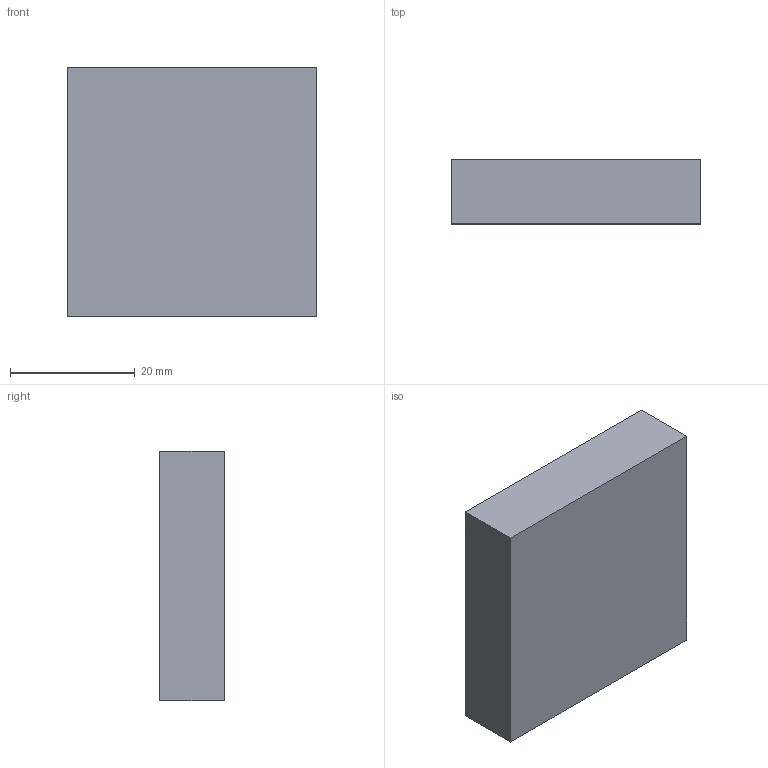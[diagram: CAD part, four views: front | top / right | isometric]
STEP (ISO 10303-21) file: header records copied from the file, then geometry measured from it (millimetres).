
FILE_DESCRIPTION(('Open CASCADE Model'),'2;1');
FILE_NAME('Open CASCADE Shape Model','2026-08-16T15:13:29',('Author'),( 'Open CASCADE'),'Open CASCADE STEP processor 7.9','Open CASCADE 7.9' ,'Unknown');
FILE_SCHEMA(('AUTOMOTIVE_DESIGN { 1 0 10303 214 1 1 1 1 }'));
Length unit declared in the file: millimetre
Products named in the file (1): Open CASCADE STEP translator 7.9 15
Bounding box: 40 x 10.3 x 40 mm (x, y, z)
Volume: 16480 mm3; surface area: 4848 mm2
Topology: 1 solids, 1 shells, 6 faces, 12 edges, 8 vertices
Faces by surface type: plane 6
Entity records: 322 total; most frequent: CARTESIAN_POINT 51, DIRECTION 50, LINE 36, VECTOR 36, ORIENTED_EDGE 24, PCURVE 24, DEFINITIONAL_REPRESENTATION 24, EDGE_CURVE 12
